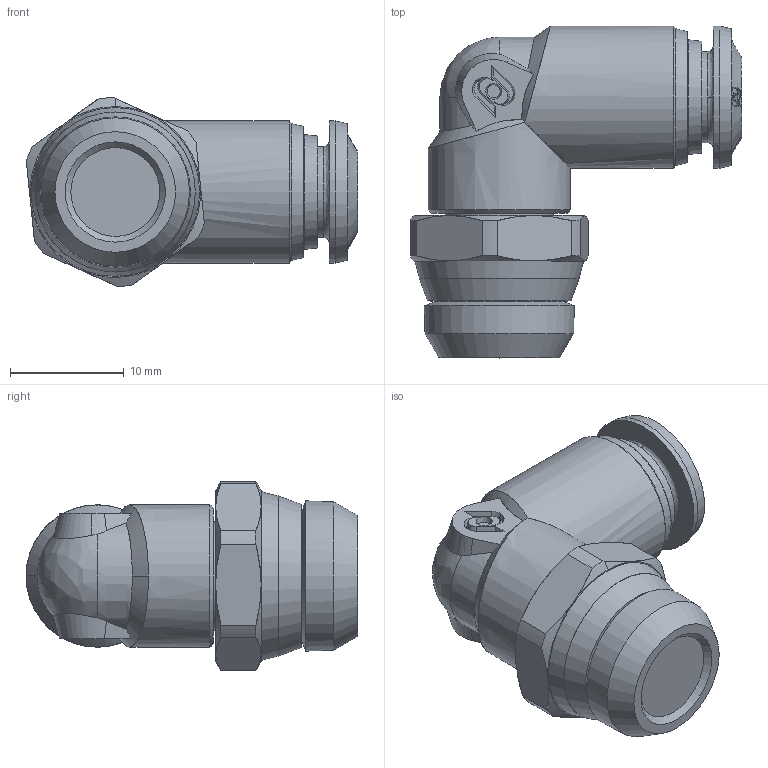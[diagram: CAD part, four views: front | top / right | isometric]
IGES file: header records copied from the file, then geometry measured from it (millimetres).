
Start section: SolidWorks IGES file using analytic representation for surfaces
Global section: file name: K:\Disegni Esecutivi\SERIE 57000\57.000-iges\ASSIEMI-IGES_57111\5711100005A.IGS; native system: SolidWorks 2011; preprocessor: SolidWorks 2011; author: cad05; date: 120615.105424; units: millimetre
Bounding box: 29.13 x 29.15 x 16.6 mm (x, y, z)
Surface area: 2414.6 mm2 (no closed solid volume)
Topology: 0 solids, 0 shells, 182 faces, 1463 edges, 1432 vertices
Faces by surface type: bspline 103, revolution 79
